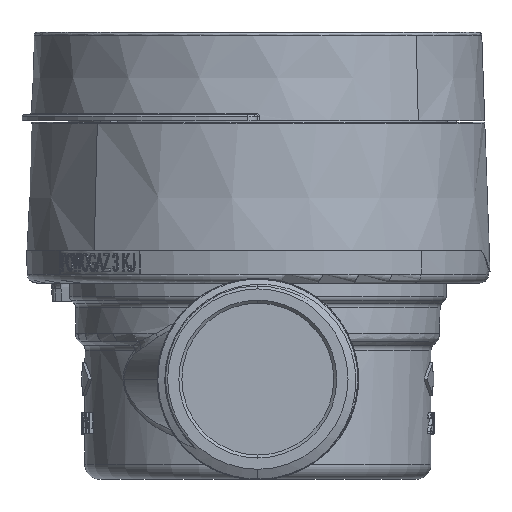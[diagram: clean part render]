
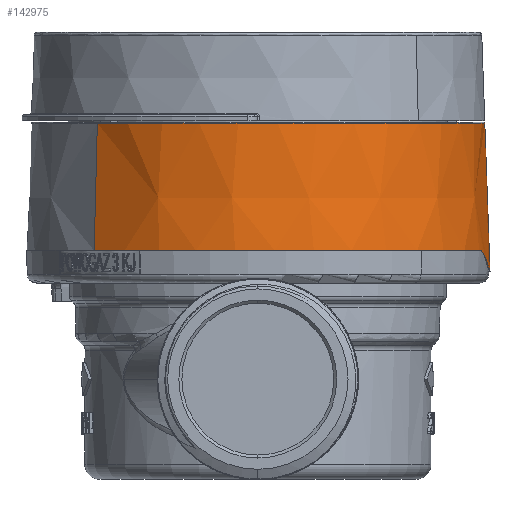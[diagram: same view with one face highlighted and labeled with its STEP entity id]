
A CAD part, left-side view. The second image highlights one B-rep face of the part: STEP entity #142975.
In plain terms, the highlighted conical face has half-angle 2 degrees and reference radius 37.9 mm.
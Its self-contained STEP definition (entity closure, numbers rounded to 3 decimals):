
#3207 = CARTESIAN_POINT ( 'NONE',  ( 26.799, 8.9, 26.799 ) ) ;
#4527 = FACE_OUTER_BOUND ( 'NONE', #153404, .T. ) ;
#5296 = DIRECTION ( 'NONE',  ( 0., -1., 0. ) ) ;
#5836 = VERTEX_POINT ( 'NONE', #147004 ) ;
#8864 = CARTESIAN_POINT ( 'NONE',  ( 18.424, 3.482, 33.338 ) ) ;
#9061 = CARTESIAN_POINT ( 'NONE',  ( 24.403, 0.669, 29.374 ) ) ;
#9124 = AXIS2_PLACEMENT_3D ( 'NONE', #24257, #83588, #131734 ) ;
#10461 = CARTESIAN_POINT ( 'NONE',  ( 18.945, 3.413, 33.047 ) ) ;
#14901 = CARTESIAN_POINT ( 'NONE',  ( -38.089, 3.5, 0. ) ) ;
#15582 = EDGE_CURVE ( 'NONE', #81867, #16044, #91920, .T. ) ;
#16044 = VERTEX_POINT ( 'NONE', #14901 ) ;
#18732 = ORIENTED_EDGE ( 'NONE', *, *, #15582, .T. ) ;
#18763 = AXIS2_PLACEMENT_3D ( 'NONE', #91087, #68104, #56317 ) ;
#20397 = DIRECTION ( 'NONE',  ( -1., 0., 0. ) ) ;
#20954 = CARTESIAN_POINT ( 'NONE',  ( 26.08, 0.079, 27.93 ) ) ;
#23084 = CARTESIAN_POINT ( 'NONE',  ( 18.157, 3.5, 33.484 ) ) ;
#24257 = CARTESIAN_POINT ( 'NONE',  ( 0., 24.457, 0. ) ) ;
#28476 = CARTESIAN_POINT ( 'NONE',  ( 20.892, 2.696, 31.881 ) ) ;
#29257 = CARTESIAN_POINT ( 'NONE',  ( 24.17, 0.804, 29.559 ) ) ;
#30605 = DIRECTION ( 'NONE',  ( -1., 0., 0. ) ) ;
#31354 = CARTESIAN_POINT ( 'NONE',  ( 0., 8.9, 0. ) ) ;
#33395 = CARTESIAN_POINT ( 'NONE',  ( 19.201, 3.361, 32.902 ) ) ;
#35226 = EDGE_CURVE ( 'NONE', #46290, #81867, #127259, .T. ) ;
#37252 = B_SPLINE_CURVE_WITH_KNOTS ( 'NONE', 3,
 ( #118738, #23084, #8864, #10461, #33395, #58742, #71325, #119525 ),
 .UNSPECIFIED., .F., .F.,
 ( 4, 2, 2, 4 ),
 ( 0.008, 0.009, 0.01, 0.012 ),
 .UNSPECIFIED. ) ;
#39367 = CIRCLE ( 'NONE', #9124, 37.357 ) ;
#39566 = CARTESIAN_POINT ( 'NONE',  ( 23.119, 1.41, 30.391 ) ) ;
#43626 = EDGE_CURVE ( 'NONE', #16044, #63330, #83857, .T. ) ;
#46290 = VERTEX_POINT ( 'NONE', #132801 ) ;
#47854 = CARTESIAN_POINT ( 'NONE',  ( 24.17, 0.804, 29.559 ) ) ;
#49498 = ORIENTED_EDGE ( 'NONE', *, *, #53492, .T. ) ;
#50766 = LINE ( 'NONE', #3207, #121945 ) ;
#53492 = EDGE_CURVE ( 'NONE', #5836, #46290, #39367, .T. ) ;
#53775 = EDGE_CURVE ( 'NONE', #63330, #99391, #37252, .T. ) ;
#56317 = DIRECTION ( 'NONE',  ( 1., 0., 0. ) ) ;
#56682 = EDGE_CURVE ( 'NONE', #99391, #151786, #57221, .T. ) ;
#57221 =( BOUNDED_CURVE ( )  B_SPLINE_CURVE ( 3, ( #28476, #113801, #39566, #29257 ),
 .UNSPECIFIED., .F., .F. ) 
 B_SPLINE_CURVE_WITH_KNOTS ( ( 4, 4 ),
 ( 5.276, 5.382 ),
 .UNSPECIFIED. ) 
 CURVE ( )  GEOMETRIC_REPRESENTATION_ITEM ( )  RATIONAL_B_SPLINE_CURVE ( ( 1., 0.999, 0.999, 1. ) ) 
 REPRESENTATION_ITEM ( '' )  );
#58742 = CARTESIAN_POINT ( 'NONE',  ( 19.951, 3.159, 32.464 ) ) ;
#58913 = CARTESIAN_POINT ( 'NONE',  ( 26.553, 0.014, 27.485 ) ) ;
#63330 = VERTEX_POINT ( 'NONE', #117065 ) ;
#64416 = B_SPLINE_CURVE_WITH_KNOTS ( 'NONE', 3,
 ( #47854, #9061, #84174, #69164, #154334, #20954, #58913, #107040 ),
 .UNSPECIFIED., .F., .F.,
 ( 4, 2, 2, 4 ),
 ( 0.012, 0.013, 0.014, 0.016 ),
 .UNSPECIFIED. ) ;
#68104 = DIRECTION ( 'NONE',  ( 0., -1., 0. ) ) ;
#69164 = CARTESIAN_POINT ( 'NONE',  ( 25.124, 0.354, 28.775 ) ) ;
#70164 = CARTESIAN_POINT ( 'NONE',  ( 0., 3.5, 0. ) ) ;
#71325 = CARTESIAN_POINT ( 'NONE',  ( 20.432, 2.962, 32.172 ) ) ;
#71748 = AXIS2_PLACEMENT_3D ( 'NONE', #31354, #5296, #30605 ) ;
#81867 = VERTEX_POINT ( 'NONE', #153236 ) ;
#83588 = DIRECTION ( 'NONE',  ( 0., -1., 0. ) ) ;
#83857 = CIRCLE ( 'NONE', #136786, 38.089 ) ;
#84174 = CARTESIAN_POINT ( 'NONE',  ( 24.642, 0.552, 29.18 ) ) ;
#87103 = ORIENTED_EDGE ( 'NONE', *, *, #43626, .T. ) ;
#89387 = DIRECTION ( 'NONE',  ( 0.025, -0.999, 0.025 ) ) ;
#89492 = CARTESIAN_POINT ( 'NONE',  ( 24.17, 0.804, 29.559 ) ) ;
#91087 = CARTESIAN_POINT ( 'NONE',  ( 0., 24.457, 0. ) ) ;
#91920 = LINE ( 'NONE', #139285, #137518 ) ;
#93498 = DIRECTION ( 'NONE',  ( -0.035, -0.999, 0. ) ) ;
#99391 = VERTEX_POINT ( 'NONE', #126456 ) ;
#101148 = ORIENTED_EDGE ( 'NONE', *, *, #142118, .F. ) ;
#103627 = ORIENTED_EDGE ( 'NONE', *, *, #35226, .T. ) ;
#107040 = CARTESIAN_POINT ( 'NONE',  ( 27.019, 0.002, 27.019 ) ) ;
#108916 = ORIENTED_EDGE ( 'NONE', *, *, #146990, .T. ) ;
#113801 = CARTESIAN_POINT ( 'NONE',  ( 22.026, 2.042, 31.166 ) ) ;
#117065 = CARTESIAN_POINT ( 'NONE',  ( 17.892, 3.5, 33.624 ) ) ;
#118738 = CARTESIAN_POINT ( 'NONE',  ( 17.892, 3.5, 33.624 ) ) ;
#119525 = CARTESIAN_POINT ( 'NONE',  ( 20.892, 2.696, 31.881 ) ) ;
#121945 = VECTOR ( 'NONE', #89387, 1000. ) ;
#124176 = ORIENTED_EDGE ( 'NONE', *, *, #53775, .T. ) ;
#126456 = CARTESIAN_POINT ( 'NONE',  ( 20.892, 2.696, 31.881 ) ) ;
#127259 = CIRCLE ( 'NONE', #18763, 37.357 ) ;
#128638 = DIRECTION ( 'NONE',  ( 0., 1., 0. ) ) ;
#130660 = ORIENTED_EDGE ( 'NONE', *, *, #56682, .T. ) ;
#131734 = DIRECTION ( 'NONE',  ( 1., 0., 0. ) ) ;
#132801 = CARTESIAN_POINT ( 'NONE',  ( 0., 24.457, 37.357 ) ) ;
#136786 = AXIS2_PLACEMENT_3D ( 'NONE', #70164, #128638, #20397 ) ;
#137518 = VECTOR ( 'NONE', #93498, 1000. ) ;
#138219 = VERTEX_POINT ( 'NONE', #141658 ) ;
#139285 = CARTESIAN_POINT ( 'NONE',  ( -37.9, 8.9, 0. ) ) ;
#139841 = CONICAL_SURFACE ( 'NONE', #71748, 37.9, 0.035 ) ;
#141658 = CARTESIAN_POINT ( 'NONE',  ( 27.019, 0.002, 27.019 ) ) ;
#142118 = EDGE_CURVE ( 'NONE', #5836, #138219, #50766, .T. ) ;
#142975 = ADVANCED_FACE ( 'NONE', ( #4527 ), #139841, .T. ) ;
#146990 = EDGE_CURVE ( 'NONE', #151786, #138219, #64416, .T. ) ;
#147004 = CARTESIAN_POINT ( 'NONE',  ( 26.415, 24.457, 26.415 ) ) ;
#151786 = VERTEX_POINT ( 'NONE', #89492 ) ;
#153236 = CARTESIAN_POINT ( 'NONE',  ( -37.357, 24.457, 0. ) ) ;
#153404 = EDGE_LOOP ( 'NONE', ( #49498, #103627, #18732, #87103, #124176, #130660, #108916, #101148 ) ) ;
#154334 = CARTESIAN_POINT ( 'NONE',  ( 25.364, 0.273, 28.568 ) ) ;
